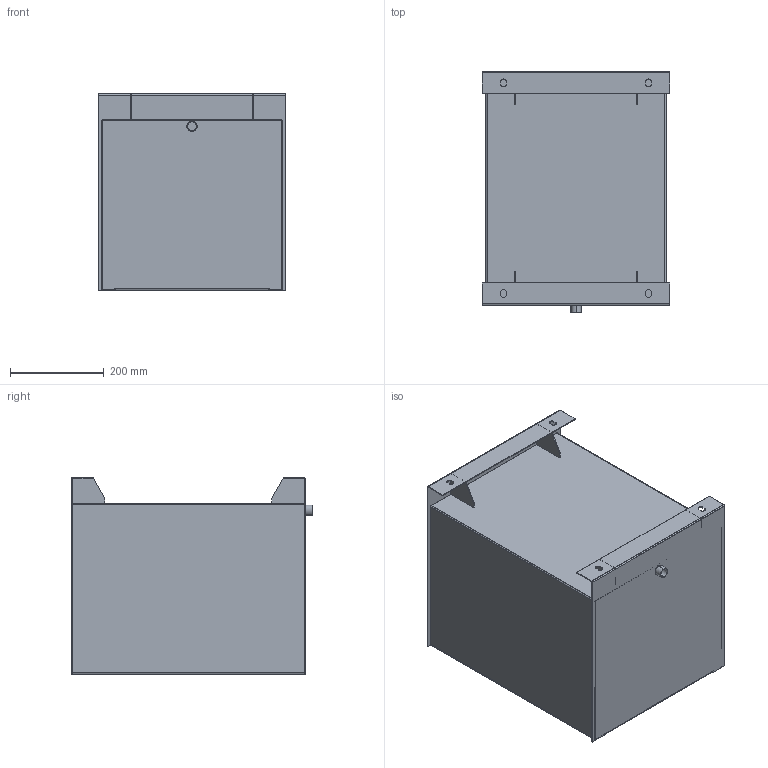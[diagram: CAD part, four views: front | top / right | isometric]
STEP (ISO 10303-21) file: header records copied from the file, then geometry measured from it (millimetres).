
FILE_DESCRIPTION (( 'STEP AP203' ), '1' );
FILE_NAME ('CFP50.STEP', '2016-01-28T14:14:19', ( '' ), ( '' ), 'SwSTEP 2.0', 'SolidWorks 2015', '' );
FILE_SCHEMA (( 'CONFIG_CONTROL_DESIGN' ));
Length unit declared in the file: millimetre
Products named in the file (1): CFP50
Bounding box: 400 x 516 x 420 mm (x, y, z)
Volume: 1949953 mm3; surface area: 1967206.9 mm2
Topology: 8 solids, 8 shells, 170 faces, 398 edges, 244 vertices
Faces by surface type: plane 120, cylinder 50
Entity records: 4889 total; most frequent: DIRECTION 840, CARTESIAN_POINT 813, ORIENTED_EDGE 796, EDGE_CURVE 398, VECTOR 298, LINE 298, AXIS2_PLACEMENT_3D 271, VERTEX_POINT 244
